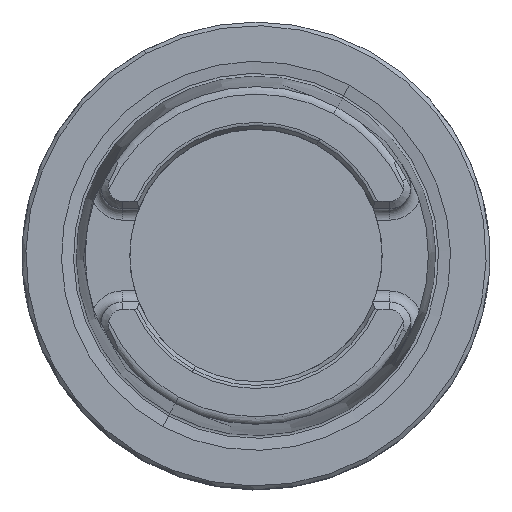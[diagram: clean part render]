
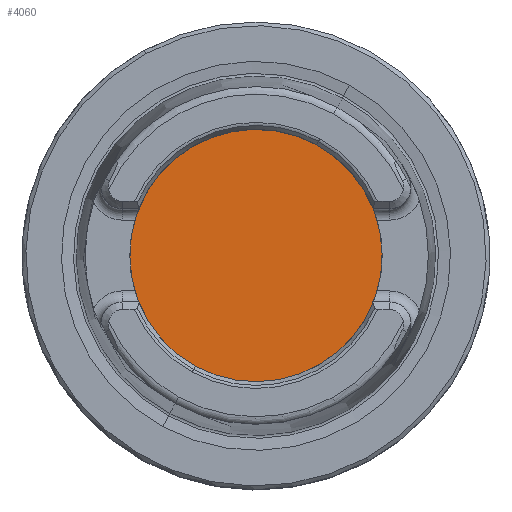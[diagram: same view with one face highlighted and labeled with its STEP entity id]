
A CAD part, top view. The second image highlights one B-rep face of the part: STEP entity #4060.
In plain terms, the highlighted planar face has unit normal (0, 0, 1).
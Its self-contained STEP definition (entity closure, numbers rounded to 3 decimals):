
#4040=AXIS2_PLACEMENT_3D('Plane Axis2P3D',#4037,#4038,#4039) ;
#4044=AXIS2_PLACEMENT_3D('Circle Axis2P3D',#4042,#4043,$) ;
#4053=AXIS2_PLACEMENT_3D('Circle Axis2P3D',#4051,#4052,$) ;
#4037=CARTESIAN_POINT('Axis2P3D Location',(0.,-15.75,20.)) ;
#4042=CARTESIAN_POINT('Axis2P3D Location',(0.,0.,20.)) ;
#4046=CARTESIAN_POINT('Vertex',(-8.15,-14.919,20.)) ;
#4048=CARTESIAN_POINT('Vertex',(8.15,14.919,20.)) ;
#4051=CARTESIAN_POINT('Axis2P3D Location',(0.,0.,20.)) ;
#4038=DIRECTION('Axis2P3D Direction',(0.,0.,-1.)) ;
#4039=DIRECTION('Axis2P3D XDirection',(-1.,0.,0.)) ;
#4043=DIRECTION('Axis2P3D Direction',(0.,0.,-1.)) ;
#4052=DIRECTION('Axis2P3D Direction',(0.,0.,-1.)) ;
#4057=ORIENTED_EDGE('',*,*,#4050,.T.) ;
#4058=ORIENTED_EDGE('',*,*,#4055,.T.) ;
#4060=ADVANCED_FACE('NO_CUT',(#4059),#4041,.F.) ;
#4045=CIRCLE('generated circle',#4044,17.) ;
#4054=CIRCLE('generated circle',#4053,17.) ;
#4050=EDGE_CURVE('',#4047,#4049,#4045,.F.) ;
#4055=EDGE_CURVE('',#4049,#4047,#4054,.F.) ;
#4056=EDGE_LOOP('',(#4057,#4058)) ;
#4059=FACE_OUTER_BOUND('',#4056,.T.) ;
#4041=PLANE('',#4040) ;
#4047=VERTEX_POINT('',#4046) ;
#4049=VERTEX_POINT('',#4048) ;
